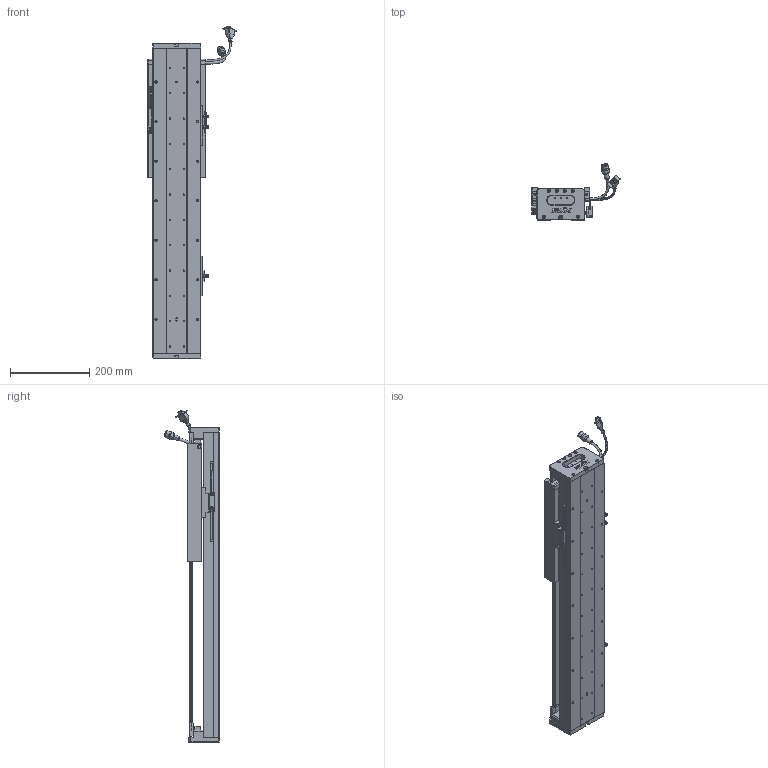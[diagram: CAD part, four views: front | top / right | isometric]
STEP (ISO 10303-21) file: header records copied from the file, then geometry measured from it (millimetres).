
FILE_DESCRIPTION (( 'STEP AP203' ), '1' );
FILE_NAME ('Z4-RY120D-1-L500-B-K.SLDASM_0400.step', '2021-05-17T06:06:01', ( '盈信电脑' ), ( '东莞市道滘镇水果街19号' ), 'SwSTEP 2.0', 'SolidWorks 2016', '' );
FILE_SCHEMA (( 'CONFIG_CONTROL_DESIGN' ));
Length unit declared in the file: millimetre
Products named in the file (37): SCREW-M1.6-2; HARNESS-Part-1; SHIELDPLATE; Z-RY120D詩湍狟揤裔; LABEL; RY100FB-遵嫖萇覜茼え; SEAL-Part-1; 140蚥薯蝶輸; HARNESS; 120-Z-臏賑輸盄裔(21遴); SCREW-M1.6; Z-RY120D詩湍奻揤裔; COVER; SCALE-Part-2; SCREW-M1.7; SCALE-Part-1; Z-120詩湍傷裔啣; LABEL-Part-1; 140雄赽晤鎢ん堤盄; Z4-RY120铝滑块（21款）; 672嫖萇羲壽假蚾釱; 080黍杅芛假蚾釱21遴; HOLDER0; SEAL; SCREW-M1.7-1; SCREW-M1.6-1; PSLH080_PSLF2; COVER-Part-1; PBU_SHEET; SCREW-M1.6-3; SCALE; Z4-RY120D-1-L500-B-K.SLDASM_0400; Z4-RY120-500-倰第菁釱_0400; 覜茼ん672; Z4-RY120-L500詩湍100mm遵_0400; 榋妏寠巭燃_暯_M2_2; HARNESS-Part-2
Assembly tree (43 placements, depth 4):
  Z4-RY120D-1-L500-B-K.SLDASM_0400
    Z4-RY120-500-倰第菁釱_0400
    覜茼ん672  x3
    672嫖萇羲壽假蚾釱  x2
    Z4-RY120铝滑块（21款）
    PSLH080_PSLF2
      SCALE
        SCALE-Part-1
        SCALE-Part-2
      HARNESS
        HARNESS-Part-1
        HARNESS-Part-2
      LABEL
        LABEL-Part-1
      COVER
        COVER-Part-1
      SEAL
        SEAL-Part-1
      榋妏寠巭燃_暯_M2_2
      SHIELDPLATE
      SCREW-M1.7
      SCREW-M1.7-1
      PBU_SHEET
      SCREW-M1.6
      SCREW-M1.6-1
      SCREW-M1.6-2
      SCREW-M1.6-3
      HOLDER0
    080黍杅芛假蚾釱21遴
    120-Z-臏賑輸盄裔(21遴)
    140雄赽晤鎢ん堤盄
    140蚥薯蝶輸  x2
    RY100FB-遵嫖萇覜茼え
    Z-120詩湍傷裔啣  x2
    Z-RY120D詩湍奻揤裔  x2
    Z-RY120D詩湍狟揤裔  x2
    Z4-RY120-L500詩湍100mm遵_0400
Bounding box: 222.88 x 140.94 x 839 mm (x, y, z)
Volume: 2762150.1 mm3; surface area: 869942.1 mm2
Topology: 38 solids, 38 shells, 2657 faces, 7076 edges, 4468 vertices
Faces by surface type: cylinder 1176, plane 1097, cone 262, torus 69, bspline 53
Entity records: 77401 total; most frequent: CARTESIAN_POINT 19670, DIRECTION 11214, ORIENTED_EDGE 11152, EDGE_CURVE 5576, AXIS2_PLACEMENT_3D 4098, VERTEX_POINT 3588, LINE 3018, VECTOR 3018
